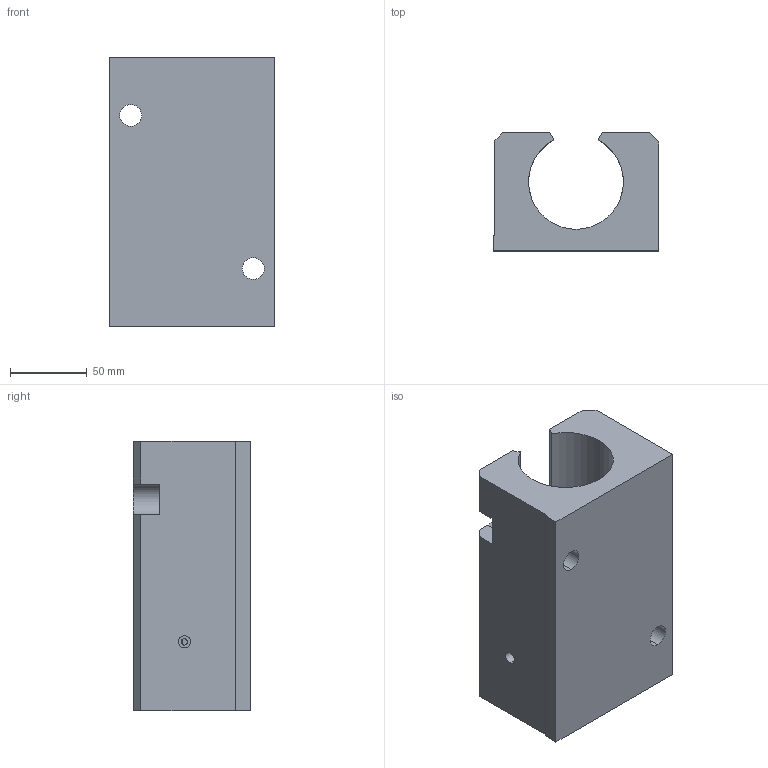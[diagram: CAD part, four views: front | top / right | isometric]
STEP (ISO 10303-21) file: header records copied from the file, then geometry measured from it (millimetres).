
FILE_DESCRIPTION (( 'STEP AP214' ), '1' );
FILE_NAME ('KTGO87-40.step', '2020-03-04T13:28:51', ( '' ), ( '' ), 'SwSTEP 2.0', 'SolidWorks 2019', '' );
FILE_SCHEMA (( 'AUTOMOTIVE_DESIGN' ));
Length unit declared in the file: millimetre
Products named in the file (1): KTGO87-40
Bounding box: 108 x 77 x 176 mm (x, y, z)
Volume: 866158.8 mm3; surface area: 106625.9 mm2
Topology: 1 solids, 1 shells, 47 faces, 129 edges, 84 vertices
Faces by surface type: plane 23, cylinder 21, cone 3
Entity records: 1806 total; most frequent: CARTESIAN_POINT 431, ORIENTED_EDGE 258, DIRECTION 252, EDGE_CURVE 129, AXIS2_PLACEMENT_3D 85, VERTEX_POINT 84, VECTOR 82, LINE 82
